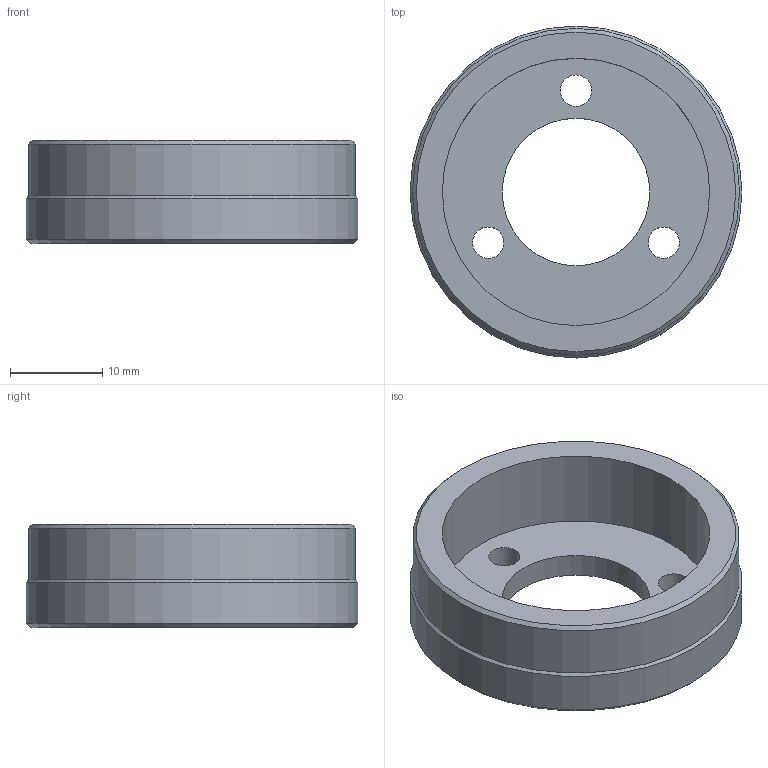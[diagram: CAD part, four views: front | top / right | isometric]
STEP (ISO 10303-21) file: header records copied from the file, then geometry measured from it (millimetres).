
FILE_DESCRIPTION(/* description */ (''),/* implementation_level */ '2;1');
FILE_NAME(/* name */ '38-A_flange_d(416.4789.01).stp',/* time_stamp */ '2018-06-29T14:21:05+02:00',/* author */ ('DR. FRITZ FAULHABER GmbH & Co. KG'),/* organization */ ('DR. FRITZ FAULHABER GmbH & Co. KG'),/* preprocessor_version */ 'ST-DEVELOPER v16.7',/* originating_system */ 'SIEMENS PLM Software NX 12.0',/* authorisation */ '');
FILE_SCHEMA (('AUTOMOTIVE_DESIGN { 1 0 10303 214 3 1 1 1 }'));
Length unit declared in the file: millimetre
Products named in the file (1): F0008235400-B-416.4789.01
Bounding box: 36 x 36 x 11.2 mm (x, y, z)
Volume: 4917.4 mm3; surface area: 3755.4 mm2
Topology: 1 solids, 1 shells, 13 faces, 30 edges, 20 vertices
Faces by surface type: cylinder 7, plane 3, cone 3
Full cylindrical faces by diameter (mm): 3.4 x3, 16 x1, 29 x1, 35.46 x1, 36 x1
Entity records: 334 total; most frequent: DIRECTION 60, CARTESIAN_POINT 46, FACE_BOUND 32, EDGE_LOOP 32, ORIENTED_EDGE 32, AXIS2_PLACEMENT_3D 30, VERTEX_POINT 16, EDGE_CURVE 16
